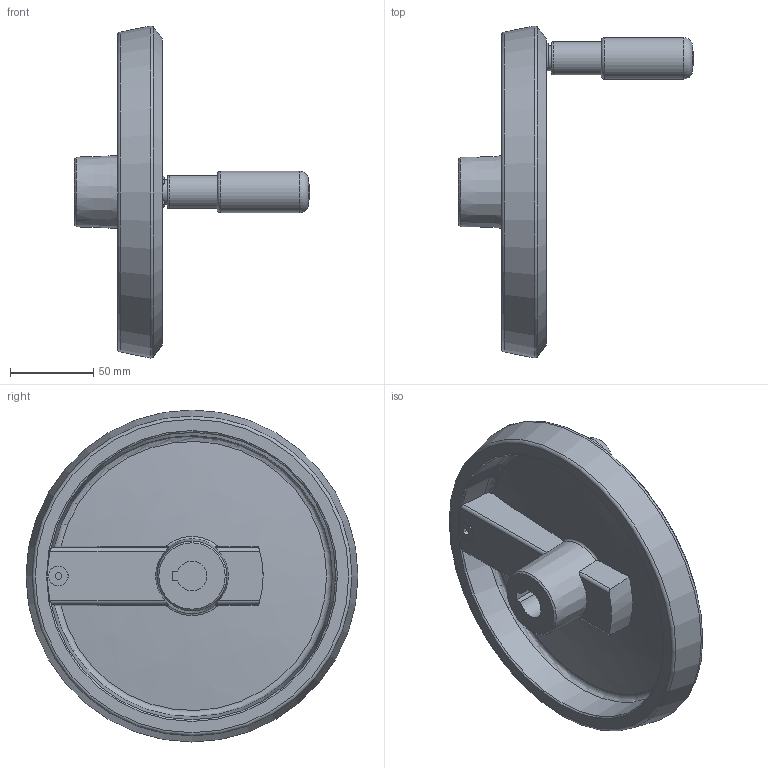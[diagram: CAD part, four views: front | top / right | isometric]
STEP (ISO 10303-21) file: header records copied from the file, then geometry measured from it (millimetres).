
FILE_DESCRIPTION( ( 'STEP AP203' ), '1' );
FILE_NAME( 'C:/Temp/Ganter_Step_05_03_2020/data/1_3/gn_923_7/gn_923_7_b/Handwheel with retractable handle GN 923.7-200-B18-R-SR (activated).stp', '2020-03-05T10:40:13', ( 'License CC BY-ND 4.0' ), ( 'CADENAS' ), ' ', 'PARTsolutions', ' ' );
FILE_SCHEMA( ( 'CONFIG_CONTROL_DESIGN' ) );
Length unit declared in the file: millimetre
Products named in the file (3): Handwheel with retractable handle GN 923.7-200-B18-R-SR (activated); _Umleggriff-Handrad GN 923.7-200-B18-R-SR-1; _Umleggriff-Handrad GN 923.7-200-B18-R-SR (90)-2
Assembly tree (2 placements, depth 2):
  Handwheel with retractable handle GN 923.7-200-B18-R-SR (activated)
    _Umleggriff-Handrad GN 923.7-200-B18-R-SR-1
    _Umleggriff-Handrad GN 923.7-200-B18-R-SR (90)-2
Bounding box: 141.7 x 200 x 200 mm (x, y, z)
Volume: 403902.5 mm3; surface area: 109069.6 mm2
Topology: 2 solids, 2 shells, 112 faces, 275 edges, 175 vertices
Faces by surface type: plane 47, cylinder 29, cone 14, torus 14, bspline 6, sphere 2
Full cylindrical faces by diameter (mm): 4 x2, 5 x1, 8 x1, 12 x1, 15 x1, 20 x2, 23 x1, 25 x1
Entity records: 3677 total; most frequent: CARTESIAN_POINT 1093, DIRECTION 515, ORIENTED_EDGE 484, EDGE_CURVE 242, AXIS2_PLACEMENT_3D 214, VERTEX_POINT 170, EDGE_LOOP 149, FACE_OUTER_BOUND 129
